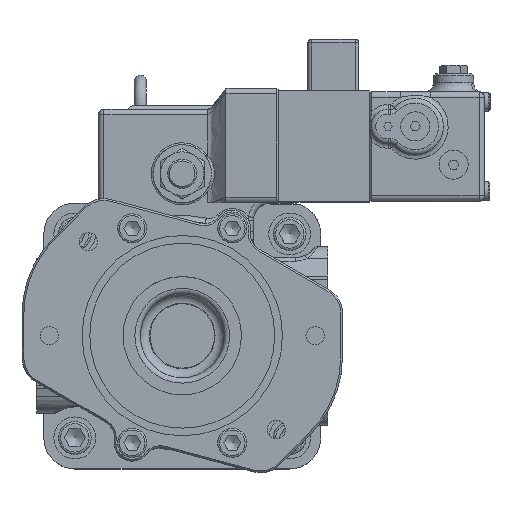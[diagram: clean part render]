
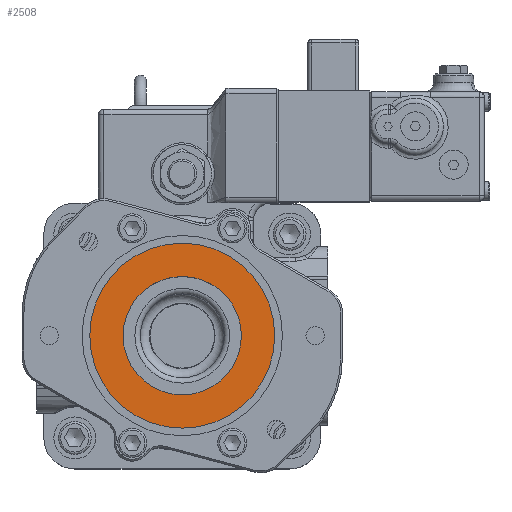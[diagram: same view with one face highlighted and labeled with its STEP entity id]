
A CAD part, top view. The second image highlights one B-rep face of the part: STEP entity #2508.
In plain terms, the highlighted planar face has unit normal (0, 0, 1).
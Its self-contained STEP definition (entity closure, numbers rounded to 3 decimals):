
#2466=CARTESIAN_POINT('',(50.8,0.,262.7));
#2467=VERTEX_POINT('',#2466);
#2468=CARTESIAN_POINT('',(0.,0.,262.7));
#2469=DIRECTION('',(0.0,0.0,1.0));
#2470=DIRECTION('',(-1.0,0.0,0.0));
#2471=AXIS2_PLACEMENT_3D('',#2468,#2469,#2470);
#2472=CIRCLE('',#2471,50.8);
#2473=EDGE_CURVE('',#2467,#2467,#2472,.T.);
#2489=CARTESIAN_POINT('',(0.,0.,262.7));
#2490=DIRECTION('',(0.0,0.0,-1.0));
#2491=DIRECTION('',(-1.0,0.0,0.0));
#2492=AXIS2_PLACEMENT_3D('',#2489,#2490,#2491);
#2493=PLANE('',#2492);
#2494=ORIENTED_EDGE('',*,*,#2473,.T.);
#2495=EDGE_LOOP('',(#2494));
#2496=FACE_OUTER_BOUND('',#2495,.T.);
#2497=CARTESIAN_POINT('',(32.5,0.,262.7));
#2498=VERTEX_POINT('',#2497);
#2499=CARTESIAN_POINT('',(0.,0.,262.7));
#2500=DIRECTION('',(0.0,0.0,1.0));
#2501=DIRECTION('',(1.0,0.0,0.0));
#2502=AXIS2_PLACEMENT_3D('',#2499,#2500,#2501);
#2503=CIRCLE('',#2502,32.5);
#2504=EDGE_CURVE('',#2498,#2498,#2503,.T.);
#2505=ORIENTED_EDGE('',*,*,#2504,.F.);
#2506=EDGE_LOOP('',(#2505));
#2507=FACE_BOUND('',#2506,.T.);
#2508=ADVANCED_FACE('',(#2496,#2507),#2493,.F.);
